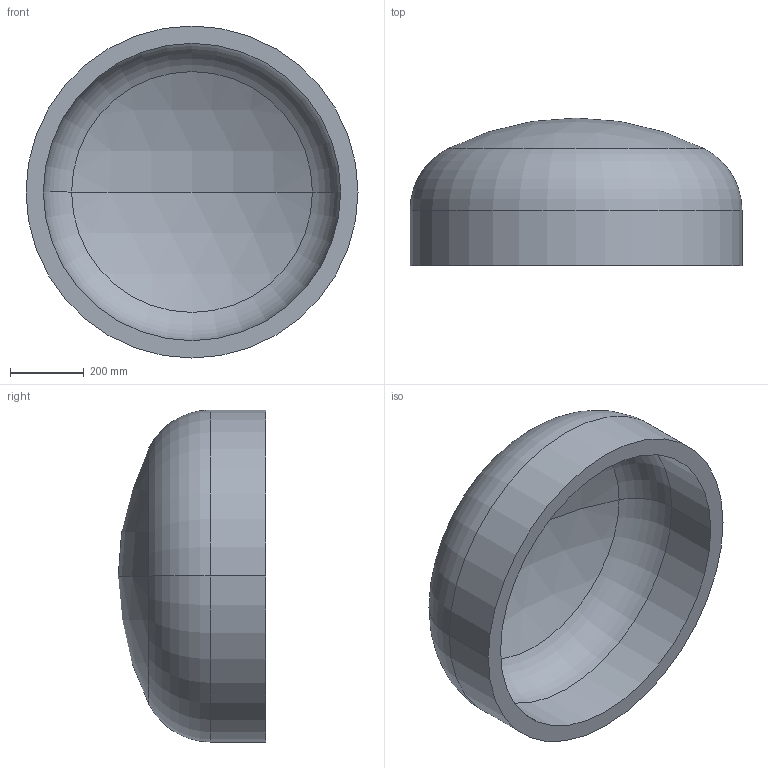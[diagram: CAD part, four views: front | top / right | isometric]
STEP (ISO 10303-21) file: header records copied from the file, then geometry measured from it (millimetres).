
FILE_DESCRIPTION (( 'STEP AP203' ), '1' );
FILE_NAME ('DIN 28013 Korbbogenform_-_Boden DIN 28013 - 900 x 150 - I - s=47.step', '2016-07-01T08:32:36', ( '' ), ( '' ), 'SwSTEP 2.0', 'SolidWorks 2013', '' );
FILE_SCHEMA (( 'CONFIG_CONTROL_DESIGN' ));
Length unit declared in the file: millimetre
Products named in the file (1): DIN 28013 Korbbogenform_-_Boden DIN 28013 - 900 x 150 - I - s=47
Bounding box: 900 x 400.06 x 900 mm (x, y, z)
Volume: 57700814.4 mm3; surface area: 2585929.4 mm2
Topology: 1 solids, 1 shells, 13 faces, 24 edges, 14 vertices
Faces by surface type: torus 4, cylinder 4, sphere 4, plane 1
Entity records: 407 total; most frequent: DIRECTION 72, CARTESIAN_POINT 52, ORIENTED_EDGE 48, AXIS2_PLACEMENT_3D 34, EDGE_CURVE 24, CIRCLE 20, VERTEX_POINT 14, EDGE_LOOP 14
